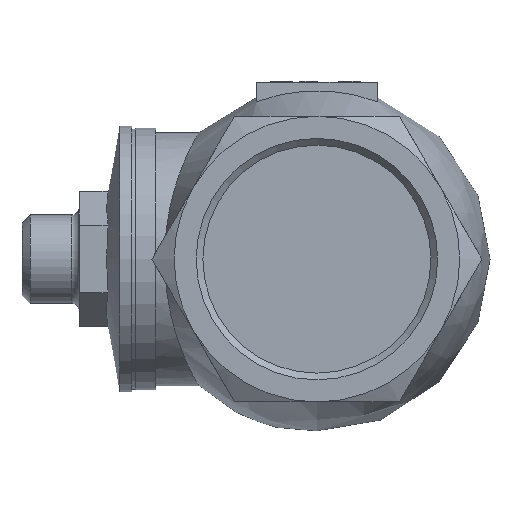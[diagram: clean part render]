
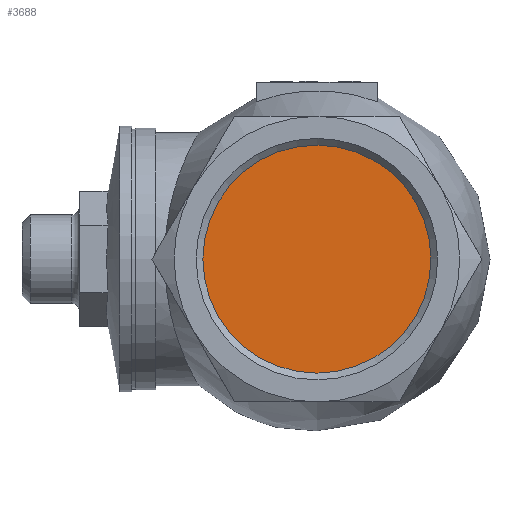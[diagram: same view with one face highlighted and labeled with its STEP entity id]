
A CAD part, left-side view. The second image highlights one B-rep face of the part: STEP entity #3688.
In plain terms, the highlighted planar face has unit normal (-1, 0, 0).
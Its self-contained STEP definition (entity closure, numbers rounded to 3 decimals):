
#185=CIRCLE('',#3938,28.328);
#186=CIRCLE('',#3939,28.328);
#1052=FACE_OUTER_BOUND('',#1281,.T.);
#1281=EDGE_LOOP('',(#3217,#3218));
#1734=VERTEX_POINT('',#6648);
#1735=VERTEX_POINT('',#6650);
#2245=EDGE_CURVE('',#1734,#1735,#185,.T.);
#2246=EDGE_CURVE('',#1735,#1734,#186,.T.);
#3217=ORIENTED_EDGE('',*,*,#2246,.F.);
#3218=ORIENTED_EDGE('',*,*,#2245,.F.);
#3480=PLANE('',#3940);
#3688=ADVANCED_FACE('',(#1052),#3480,.F.);
#3938=AXIS2_PLACEMENT_3D('',#6651,#4674,#4675);
#3939=AXIS2_PLACEMENT_3D('',#6652,#4676,#4677);
#3940=AXIS2_PLACEMENT_3D('',#6653,#4678,#4679);
#4674=DIRECTION('center_axis',(1.,0.,0.));
#4675=DIRECTION('ref_axis',(0.,0.,-1.));
#4676=DIRECTION('center_axis',(1.,0.,0.));
#4677=DIRECTION('ref_axis',(0.,0.,-1.));
#4678=DIRECTION('center_axis',(1.,0.,0.));
#4679=DIRECTION('ref_axis',(0.,0.,-1.));
#6648=CARTESIAN_POINT('',(-40.,0.,28.328));
#6650=CARTESIAN_POINT('',(-40.,0.,-28.328));
#6651=CARTESIAN_POINT('Origin',(-40.,0.,0.));
#6652=CARTESIAN_POINT('Origin',(-40.,0.,0.));
#6653=CARTESIAN_POINT('Origin',(-40.,0.,0.));
